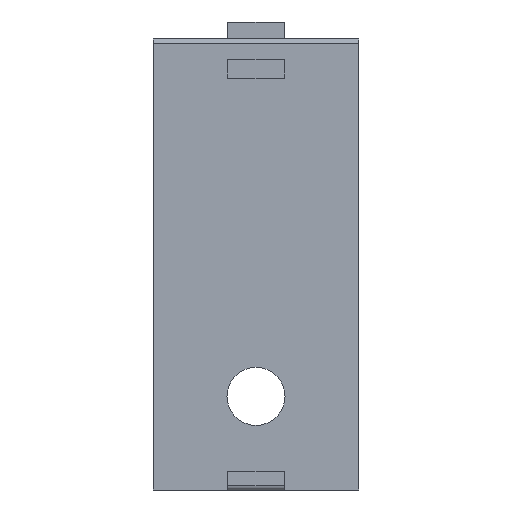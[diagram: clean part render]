
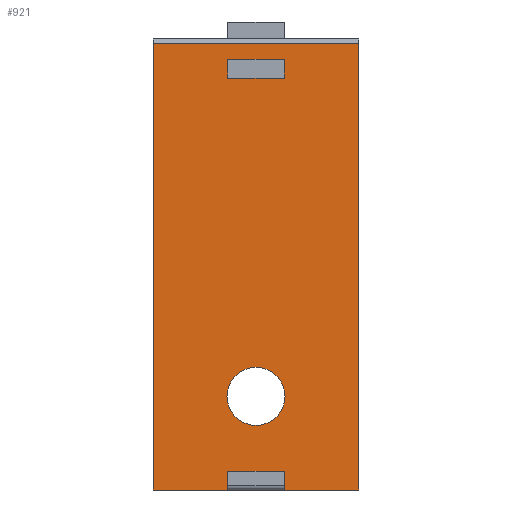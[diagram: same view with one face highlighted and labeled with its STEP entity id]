
A CAD part, left-side view. The second image highlights one B-rep face of the part: STEP entity #921.
In plain terms, the highlighted planar face has unit normal (-1, 0, 0).
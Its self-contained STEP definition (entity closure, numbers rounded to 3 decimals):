
#12 = EDGE_CURVE ( 'NONE', #76, #1732, #986, .T. ) ;
#27 = LINE ( 'NONE', #58, #712 ) ;
#35 = CARTESIAN_POINT ( 'NONE',  ( 1.8, 0., -2.3 ) ) ;
#58 = CARTESIAN_POINT ( 'NONE',  ( 1.8, 22., -50. ) ) ;
#64 = CARTESIAN_POINT ( 'NONE',  ( 1.8, 14., -50. ) ) ;
#68 = VECTOR ( 'NONE', #1587, 1000. ) ;
#74 = DIRECTION ( 'NONE',  ( 1., 0., 0. ) ) ;
#76 = VERTEX_POINT ( 'NONE', #617 ) ;
#81 = EDGE_CURVE ( 'NONE', #1663, #1578, #260, .T. ) ;
#82 = DIRECTION ( 'NONE',  ( 0., 1., 0. ) ) ;
#116 = FACE_OUTER_BOUND ( 'NONE', #1539, .T. ) ;
#132 = VERTEX_POINT ( 'NONE', #324 ) ;
#134 = ORIENTED_EDGE ( 'NONE', *, *, #1264, .T. ) ;
#170 = DIRECTION ( 'NONE',  ( 0., 0., -1. ) ) ;
#191 = EDGE_CURVE ( 'NONE', #132, #1424, #1457, .T. ) ;
#208 = CARTESIAN_POINT ( 'NONE',  ( 1.8, 14., 0. ) ) ;
#218 = ORIENTED_EDGE ( 'NONE', *, *, #322, .F. ) ;
#230 = DIRECTION ( 'NONE',  ( 0., 1., 0. ) ) ;
#256 = DIRECTION ( 'NONE',  ( 1., 0., 0. ) ) ;
#260 = LINE ( 'NONE', #568, #904 ) ;
#274 = AXIS2_PLACEMENT_3D ( 'NONE', #1339, #1393, #528 ) ;
#288 = LINE ( 'NONE', #721, #1712 ) ;
#312 = ORIENTED_EDGE ( 'NONE', *, *, #1690, .T. ) ;
#315 = LINE ( 'NONE', #1535, #1737 ) ;
#322 = EDGE_CURVE ( 'NONE', #76, #1123, #556, .T. ) ;
#324 = CARTESIAN_POINT ( 'NONE',  ( 1.8, 14., -48. ) ) ;
#339 = CARTESIAN_POINT ( 'NONE',  ( 1.8, 0., -4. ) ) ;
#366 = VECTOR ( 'NONE', #170, 1000. ) ;
#389 = CIRCLE ( 'NONE', #274, 3.1 ) ;
#394 = EDGE_CURVE ( 'NONE', #1230, #1487, #389, .T. ) ;
#414 = ORIENTED_EDGE ( 'NONE', *, *, #394, .T. ) ;
#421 = EDGE_LOOP ( 'NONE', ( #835, #218, #1657, #1469 ) ) ;
#465 = VERTEX_POINT ( 'NONE', #1279 ) ;
#510 = CARTESIAN_POINT ( 'NONE',  ( 1.8, 14., -6. ) ) ;
#525 = DIRECTION ( 'NONE',  ( 0., 1., 0. ) ) ;
#528 = DIRECTION ( 'NONE',  ( 0., 1., 0. ) ) ;
#554 = DIRECTION ( 'NONE',  ( 0., 0., -1. ) ) ;
#556 = LINE ( 'NONE', #339, #1243 ) ;
#560 = ORIENTED_EDGE ( 'NONE', *, *, #1197, .F. ) ;
#568 = CARTESIAN_POINT ( 'NONE',  ( 1.8, 22., 0. ) ) ;
#581 = ORIENTED_EDGE ( 'NONE', *, *, #961, .F. ) ;
#596 = CARTESIAN_POINT ( 'NONE',  ( 1.8, 0., -6. ) ) ;
#597 = EDGE_CURVE ( 'NONE', #1268, #621, #797, .T. ) ;
#603 = CARTESIAN_POINT ( 'NONE',  ( 1.8, 22., -50. ) ) ;
#614 = AXIS2_PLACEMENT_3D ( 'NONE', #977, #256, #230 ) ;
#617 = CARTESIAN_POINT ( 'NONE',  ( 1.8, 8., -4. ) ) ;
#619 = VECTOR ( 'NONE', #654, 1000. ) ;
#621 = VERTEX_POINT ( 'NONE', #1762 ) ;
#654 = DIRECTION ( 'NONE',  ( 0., 0., -1. ) ) ;
#692 = VECTOR ( 'NONE', #854, 1000. ) ;
#693 = VERTEX_POINT ( 'NONE', #1068 ) ;
#698 = ORIENTED_EDGE ( 'NONE', *, *, #597, .F. ) ;
#702 = CARTESIAN_POINT ( 'NONE',  ( 1.8, 14., -4. ) ) ;
#712 = VECTOR ( 'NONE', #82, 1000. ) ;
#721 = CARTESIAN_POINT ( 'NONE',  ( 1.8, 22., -2.3 ) ) ;
#768 = CARTESIAN_POINT ( 'NONE',  ( 1.8, 8., 0. ) ) ;
#797 = LINE ( 'NONE', #1488, #68 ) ;
#835 = ORIENTED_EDGE ( 'NONE', *, *, #1240, .F. ) ;
#839 = FACE_BOUND ( 'NONE', #1321, .T. ) ;
#854 = DIRECTION ( 'NONE',  ( 0., 1., 0. ) ) ;
#866 = EDGE_CURVE ( 'NONE', #1732, #905, #935, .T. ) ;
#871 = CARTESIAN_POINT ( 'NONE',  ( 1.8, 22., -50. ) ) ;
#889 = VECTOR ( 'NONE', #1038, 1000. ) ;
#897 = DIRECTION ( 'NONE',  ( 0., 1., 0. ) ) ;
#904 = VECTOR ( 'NONE', #554, 1000. ) ;
#905 = VERTEX_POINT ( 'NONE', #510 ) ;
#921 = ADVANCED_FACE ( 'NONE', ( #839, #1014, #116 ), #1700, .F. ) ;
#922 = ORIENTED_EDGE ( 'NONE', *, *, #81, .T. ) ;
#935 = LINE ( 'NONE', #596, #889 ) ;
#961 = EDGE_CURVE ( 'NONE', #621, #693, #27, .T. ) ;
#965 = CIRCLE ( 'NONE', #1228, 3.1 ) ;
#971 = CARTESIAN_POINT ( 'NONE',  ( 1.8, 0., -48. ) ) ;
#977 = CARTESIAN_POINT ( 'NONE',  ( 1.8, 22., 0. ) ) ;
#986 = LINE ( 'NONE', #768, #619 ) ;
#987 = LINE ( 'NONE', #603, #1312 ) ;
#1009 = LINE ( 'NONE', #1546, #1378 ) ;
#1014 = FACE_BOUND ( 'NONE', #421, .T. ) ;
#1023 = CARTESIAN_POINT ( 'NONE',  ( 1.8, 11., -40. ) ) ;
#1038 = DIRECTION ( 'NONE',  ( 0., 1., 0. ) ) ;
#1061 = ORIENTED_EDGE ( 'NONE', *, *, #1238, .T. ) ;
#1068 = CARTESIAN_POINT ( 'NONE',  ( 1.8, 8., -50. ) ) ;
#1123 = VERTEX_POINT ( 'NONE', #702 ) ;
#1146 = CARTESIAN_POINT ( 'NONE',  ( 1.8, 11., -43.1 ) ) ;
#1197 = EDGE_CURVE ( 'NONE', #465, #132, #1415, .T. ) ;
#1228 = AXIS2_PLACEMENT_3D ( 'NONE', #1023, #74, #897 ) ;
#1230 = VERTEX_POINT ( 'NONE', #1452 ) ;
#1238 = EDGE_CURVE ( 'NONE', #1268, #1663, #288, .T. ) ;
#1240 = EDGE_CURVE ( 'NONE', #1123, #905, #1009, .T. ) ;
#1243 = VECTOR ( 'NONE', #525, 1000. ) ;
#1264 = EDGE_CURVE ( 'NONE', #1487, #1230, #965, .T. ) ;
#1268 = VERTEX_POINT ( 'NONE', #35 ) ;
#1279 = CARTESIAN_POINT ( 'NONE',  ( 1.8, 8., -48. ) ) ;
#1312 = VECTOR ( 'NONE', #1541, 1000. ) ;
#1313 = DIRECTION ( 'NONE',  ( 0., 0., -1. ) ) ;
#1321 = EDGE_LOOP ( 'NONE', ( #134, #414 ) ) ;
#1339 = CARTESIAN_POINT ( 'NONE',  ( 1.8, 11., -40. ) ) ;
#1378 = VECTOR ( 'NONE', #1313, 1000. ) ;
#1393 = DIRECTION ( 'NONE',  ( 1., 0., 0. ) ) ;
#1415 = LINE ( 'NONE', #971, #692 ) ;
#1424 = VERTEX_POINT ( 'NONE', #64 ) ;
#1452 = CARTESIAN_POINT ( 'NONE',  ( 1.8, 11., -36.9 ) ) ;
#1453 = CARTESIAN_POINT ( 'NONE',  ( 1.8, 8., -6. ) ) ;
#1457 = LINE ( 'NONE', #208, #366 ) ;
#1469 = ORIENTED_EDGE ( 'NONE', *, *, #866, .T. ) ;
#1474 = EDGE_CURVE ( 'NONE', #1424, #1578, #987, .T. ) ;
#1487 = VERTEX_POINT ( 'NONE', #1146 ) ;
#1488 = CARTESIAN_POINT ( 'NONE',  ( 1.8, 0., 0. ) ) ;
#1510 = DIRECTION ( 'NONE',  ( 0., 0., -1. ) ) ;
#1535 = CARTESIAN_POINT ( 'NONE',  ( 1.8, 8., 0. ) ) ;
#1539 = EDGE_LOOP ( 'NONE', ( #698, #1061, #922, #1583, #1736, #560, #312, #581 ) ) ;
#1541 = DIRECTION ( 'NONE',  ( 0., 1., 0. ) ) ;
#1546 = CARTESIAN_POINT ( 'NONE',  ( 1.8, 14., 0. ) ) ;
#1578 = VERTEX_POINT ( 'NONE', #871 ) ;
#1583 = ORIENTED_EDGE ( 'NONE', *, *, #1474, .F. ) ;
#1587 = DIRECTION ( 'NONE',  ( 0., 0., -1. ) ) ;
#1607 = CARTESIAN_POINT ( 'NONE',  ( 1.8, 22., -2.3 ) ) ;
#1657 = ORIENTED_EDGE ( 'NONE', *, *, #12, .T. ) ;
#1663 = VERTEX_POINT ( 'NONE', #1607 ) ;
#1683 = DIRECTION ( 'NONE',  ( 0., 1., 0. ) ) ;
#1690 = EDGE_CURVE ( 'NONE', #465, #693, #315, .T. ) ;
#1700 = PLANE ( 'NONE',  #614 ) ;
#1712 = VECTOR ( 'NONE', #1683, 1000. ) ;
#1732 = VERTEX_POINT ( 'NONE', #1453 ) ;
#1736 = ORIENTED_EDGE ( 'NONE', *, *, #191, .F. ) ;
#1737 = VECTOR ( 'NONE', #1510, 1000. ) ;
#1762 = CARTESIAN_POINT ( 'NONE',  ( 1.8, 0., -50. ) ) ;
